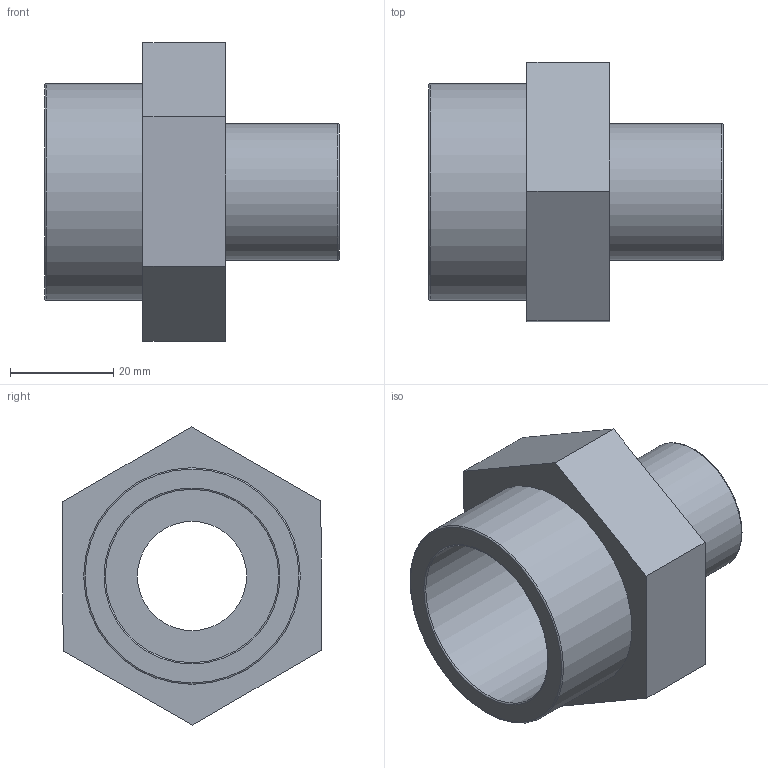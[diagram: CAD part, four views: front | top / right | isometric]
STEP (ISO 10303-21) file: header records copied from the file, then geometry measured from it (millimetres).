
FILE_DESCRIPTION(/* description */ ('PLASSON THR. REDUCING NIPPLE 1.1/4"-3/4" PVC'),/* implementation_level */ '2;1');
FILE_NAME(/* name */ 'C:\Dropbox\KIMPROJECTS-Inventor\99-16-3568-Processing\PVC Catalog 2017\051601\051601013007.ipt.stp',/* time_stamp */ '2017-12-07T16:00:55+02:00',/* author */ ('KIM'),/* organization */ (''),/* preprocessor_version */ 'ST-DEVELOPER v15.6',/* originating_system */ 'Autodesk Inventor 2015',/* authorisation */ '');
FILE_SCHEMA (('AUTOMOTIVE_DESIGN { 1 0 10303 214 3 1 1 }'));
Length unit declared in the file: millimetre
Products named in the file (1): 051601013007
Bounding box: 57 x 50.11 x 57.73 mm (x, y, z)
Volume: 36632.2 mm3; surface area: 15661.3 mm2
Topology: 1 solids, 1 shells, 19 faces, 38 edges, 24 vertices
Faces by surface type: plane 11, torus 4, cylinder 4
Full cylindrical faces by diameter (mm): 21.153 x1, 26.441 x1, 33.528 x1, 41.91 x1
Entity records: 480 total; most frequent: DIRECTION 82, CARTESIAN_POINT 74, ORIENTED_EDGE 60, EDGE_LOOP 32, AXIS2_PLACEMENT_3D 32, EDGE_CURVE 30, VERTEX_POINT 24, FACE_OUTER_BOUND 19
